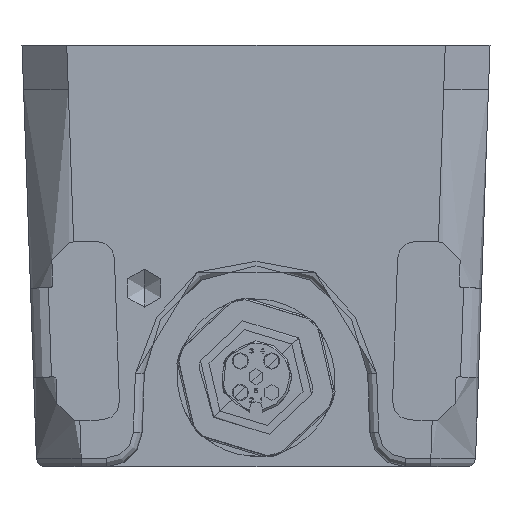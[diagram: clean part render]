
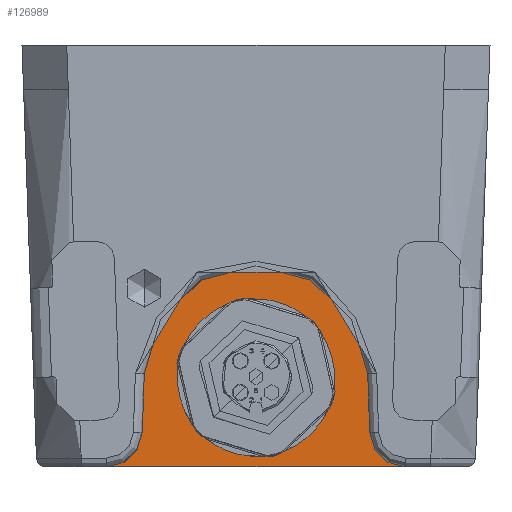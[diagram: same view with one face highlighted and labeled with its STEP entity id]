
A CAD part, left-side view. The second image highlights one B-rep face of the part: STEP entity #126989.
In plain terms, the highlighted planar face has unit normal (-1, 0, 0).
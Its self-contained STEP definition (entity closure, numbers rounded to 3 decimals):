
#2356 = CIRCLE ( 'NONE', #85070, 6.5 ) ;
#2963 = DIRECTION ( 'NONE',  ( 1., 0., 0. ) ) ;
#3454 = CARTESIAN_POINT ( 'NONE',  ( -141.75, 0., 10. ) ) ;
#5636 = EDGE_CURVE ( 'NONE', #109301, #83579, #66259, .T. ) ;
#7110 = DIRECTION ( 'NONE',  ( 0., 0., 1. ) ) ;
#8151 = DIRECTION ( 'NONE',  ( -1., 0., 0. ) ) ;
#9912 = EDGE_CURVE ( 'NONE', #31851, #38307, #116938, .T. ) ;
#11831 = EDGE_CURVE ( 'NONE', #29562, #42226, #81696, .T. ) ;
#13763 = DIRECTION ( 'NONE',  ( 1., 0., 0. ) ) ;
#14933 = FACE_OUTER_BOUND ( 'NONE', #21977, .T. ) ;
#17664 = ORIENTED_EDGE ( 'NONE', *, *, #117532, .T. ) ;
#18584 = CARTESIAN_POINT ( 'NONE',  ( -141.75, 0., 10. ) ) ;
#20056 = DIRECTION ( 'NONE',  ( 0., 0., 1. ) ) ;
#21886 = CARTESIAN_POINT ( 'NONE',  ( -141.75, 0., 22.5 ) ) ;
#21977 = EDGE_LOOP ( 'NONE', ( #77443, #55461, #109404, #124788, #69373, #60948, #17664 ) ) ;
#25390 = CARTESIAN_POINT ( 'NONE',  ( -141.75, -16.72, 0. ) ) ;
#26842 = VECTOR ( 'NONE', #53270, 1000. ) ;
#28955 = VERTEX_POINT ( 'NONE', #129078 ) ;
#29068 = CIRCLE ( 'NONE', #35447, 12.5 ) ;
#29562 = VERTEX_POINT ( 'NONE', #25390 ) ;
#31851 = VERTEX_POINT ( 'NONE', #43980 ) ;
#32058 = LINE ( 'NONE', #61994, #54934 ) ;
#33358 = DIRECTION ( 'NONE',  ( 0., 0.035, 0.999 ) ) ;
#35447 = AXIS2_PLACEMENT_3D ( 'NONE', #121130, #8151, #20056 ) ;
#37650 = DIRECTION ( 'NONE',  ( 0., 0., 1. ) ) ;
#38307 = VERTEX_POINT ( 'NONE', #81986 ) ;
#40913 = LINE ( 'NONE', #51516, #96428 ) ;
#42226 = VERTEX_POINT ( 'NONE', #102750 ) ;
#43980 = CARTESIAN_POINT ( 'NONE',  ( -141.75, 0., 16.5 ) ) ;
#45453 = DIRECTION ( 'NONE',  ( 0., 0., 1. ) ) ;
#46637 = EDGE_CURVE ( 'NONE', #28955, #117023, #77860, .T. ) ;
#50205 = DIRECTION ( 'NONE',  ( 0., 0.035, -0.999 ) ) ;
#51516 = CARTESIAN_POINT ( 'NONE',  ( -141.75, 12.492, 10.436 ) ) ;
#53270 = DIRECTION ( 'NONE',  ( 0., -1., 0. ) ) ;
#54934 = VECTOR ( 'NONE', #33358, 1000. ) ;
#55461 = ORIENTED_EDGE ( 'NONE', *, *, #70353, .T. ) ;
#55468 = ORIENTED_EDGE ( 'NONE', *, *, #83896, .F. ) ;
#59130 = DIRECTION ( 'NONE',  ( -1., 0., 0. ) ) ;
#60948 = ORIENTED_EDGE ( 'NONE', *, *, #11831, .T. ) ;
#61994 = CARTESIAN_POINT ( 'NONE',  ( -141.75, -12.857, 0. ) ) ;
#64265 = CARTESIAN_POINT ( 'NONE',  ( -141.75, -16.72, 4. ) ) ;
#65919 = AXIS2_PLACEMENT_3D ( 'NONE', #3454, #106515, #124473 ) ;
#66259 = CIRCLE ( 'NONE', #123621, 4. ) ;
#69373 = ORIENTED_EDGE ( 'NONE', *, *, #78518, .T. ) ;
#70025 = DIRECTION ( 'NONE',  ( -1., 0., 0. ) ) ;
#70144 = DIRECTION ( 'NONE',  ( -1., 0., 0. ) ) ;
#70353 = EDGE_CURVE ( 'NONE', #117023, #125366, #29068, .T. ) ;
#73870 = LINE ( 'NONE', #93186, #26842 ) ;
#77231 = CARTESIAN_POINT ( 'NONE',  ( -141.75, 12.492, 10.436 ) ) ;
#77408 = FACE_BOUND ( 'NONE', #121227, .T. ) ;
#77443 = ORIENTED_EDGE ( 'NONE', *, *, #46637, .T. ) ;
#77860 = CIRCLE ( 'NONE', #118239, 12.5 ) ;
#78431 = DIRECTION ( 'NONE',  ( 0., 0., 1. ) ) ;
#78518 = EDGE_CURVE ( 'NONE', #83579, #29562, #73870, .T. ) ;
#80014 = CARTESIAN_POINT ( 'NONE',  ( -141.75, 0., 10. ) ) ;
#81696 = CIRCLE ( 'NONE', #100903, 4. ) ;
#81986 = CARTESIAN_POINT ( 'NONE',  ( -141.75, 0., 3.5 ) ) ;
#83579 = VERTEX_POINT ( 'NONE', #90039 ) ;
#83884 = ORIENTED_EDGE ( 'NONE', *, *, #9912, .F. ) ;
#83896 = EDGE_CURVE ( 'NONE', #38307, #31851, #2356, .T. ) ;
#85070 = AXIS2_PLACEMENT_3D ( 'NONE', #18584, #59130, #78431 ) ;
#90039 = CARTESIAN_POINT ( 'NONE',  ( -141.75, 16.72, 0. ) ) ;
#91287 = DIRECTION ( 'NONE',  ( 0., 0., 1. ) ) ;
#92281 = CARTESIAN_POINT ( 'NONE',  ( -141.75, 12.722, 3.86 ) ) ;
#93186 = CARTESIAN_POINT ( 'NONE',  ( -141.75, 12.857, 0. ) ) ;
#94017 = CARTESIAN_POINT ( 'NONE',  ( -141.75, 16.72, 4. ) ) ;
#96428 = VECTOR ( 'NONE', #50205, 1000. ) ;
#100903 = AXIS2_PLACEMENT_3D ( 'NONE', #64265, #13763, #7110 ) ;
#102750 = CARTESIAN_POINT ( 'NONE',  ( -141.75, -12.722, 3.86 ) ) ;
#104008 = EDGE_CURVE ( 'NONE', #125366, #109301, #40913, .T. ) ;
#106515 = DIRECTION ( 'NONE',  ( -1., 0., 0. ) ) ;
#109201 = AXIS2_PLACEMENT_3D ( 'NONE', #80014, #70025, #91287 ) ;
#109301 = VERTEX_POINT ( 'NONE', #92281 ) ;
#109404 = ORIENTED_EDGE ( 'NONE', *, *, #104008, .T. ) ;
#116938 = CIRCLE ( 'NONE', #65919, 6.5 ) ;
#117023 = VERTEX_POINT ( 'NONE', #21886 ) ;
#117532 = EDGE_CURVE ( 'NONE', #42226, #28955, #32058, .T. ) ;
#118239 = AXIS2_PLACEMENT_3D ( 'NONE', #130779, #70144, #37650 ) ;
#118676 = PLANE ( 'NONE',  #109201 ) ;
#121130 = CARTESIAN_POINT ( 'NONE',  ( -141.75, 0., 10. ) ) ;
#121227 = EDGE_LOOP ( 'NONE', ( #83884, #55468 ) ) ;
#123621 = AXIS2_PLACEMENT_3D ( 'NONE', #94017, #2963, #45453 ) ;
#124473 = DIRECTION ( 'NONE',  ( 0., 0., 1. ) ) ;
#124788 = ORIENTED_EDGE ( 'NONE', *, *, #5636, .T. ) ;
#125366 = VERTEX_POINT ( 'NONE', #77231 ) ;
#126989 = ADVANCED_FACE ( 'NONE', ( #77408, #14933 ), #118676, .T. ) ;
#129078 = CARTESIAN_POINT ( 'NONE',  ( -141.75, -12.492, 10.436 ) ) ;
#130779 = CARTESIAN_POINT ( 'NONE',  ( -141.75, 0., 10. ) ) ;
